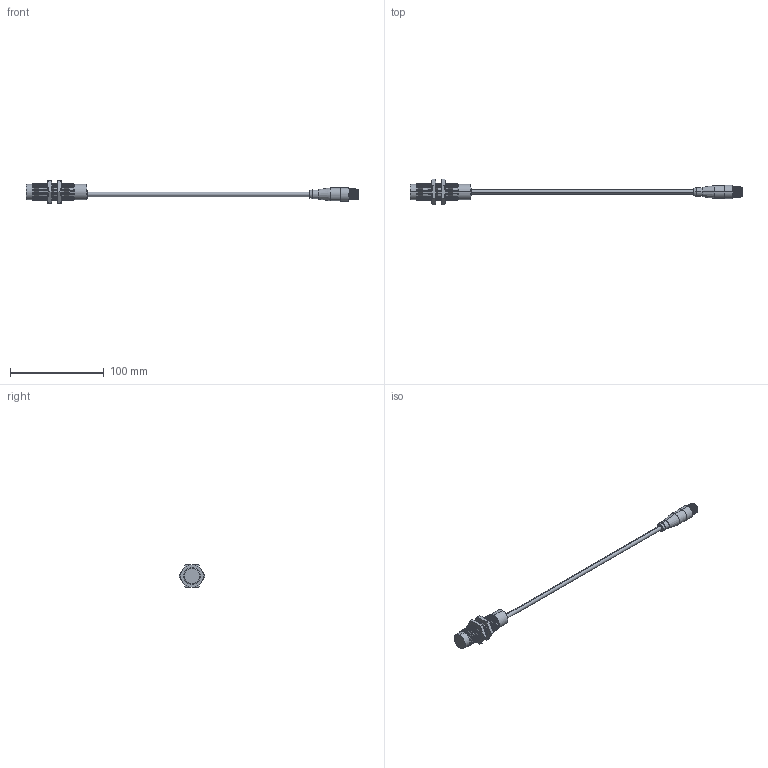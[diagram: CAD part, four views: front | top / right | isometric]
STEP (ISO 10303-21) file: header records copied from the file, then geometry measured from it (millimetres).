
FILE_DESCRIPTION (( 'STEP AP203' ), '1' );
FILE_NAME ('90-XXXX-022.STEP', '2015-10-28T13:17:08', ( 'Sam' ), ( 'Spade' ), 'SwSTEP 2.0', 'SolidWorks 2002296', '' );
FILE_SCHEMA (( 'CONFIG_CONTROL_DESIGN' ));
Length unit declared in the file: inch
Products named in the file (12): 90-XXXX-022; Imported216; Imported215; Imported213; Imported220; Imported219; Imported218; Imported214; Imported221; Imported211; Imported212; Imported217
Assembly tree (11 placements, depth 2):
  90-XXXX-022
    Imported221
    Imported211
    Imported213
    Imported212
    Imported217
    Imported215
    Imported219
    Imported218
    Imported216
    Imported220
    Imported214
Bounding box: 354.09 x 27.69 x 23.98 mm (x, y, z)
Volume: 28368.7 mm3; surface area: 16589.6 mm2
Topology: 11 solids, 11 shells, 558 faces, 1137 edges, 611 vertices
Faces by surface type: cone 275, cylinder 215, plane 54, bspline 14
Entity records: 16128 total; most frequent: CARTESIAN_POINT 3044, DIRECTION 2762, ORIENTED_EDGE 2262, AXIS2_PLACEMENT_3D 1133, EDGE_CURVE 1131, VERTEX_POINT 611, EDGE_LOOP 580, CIRCLE 575
